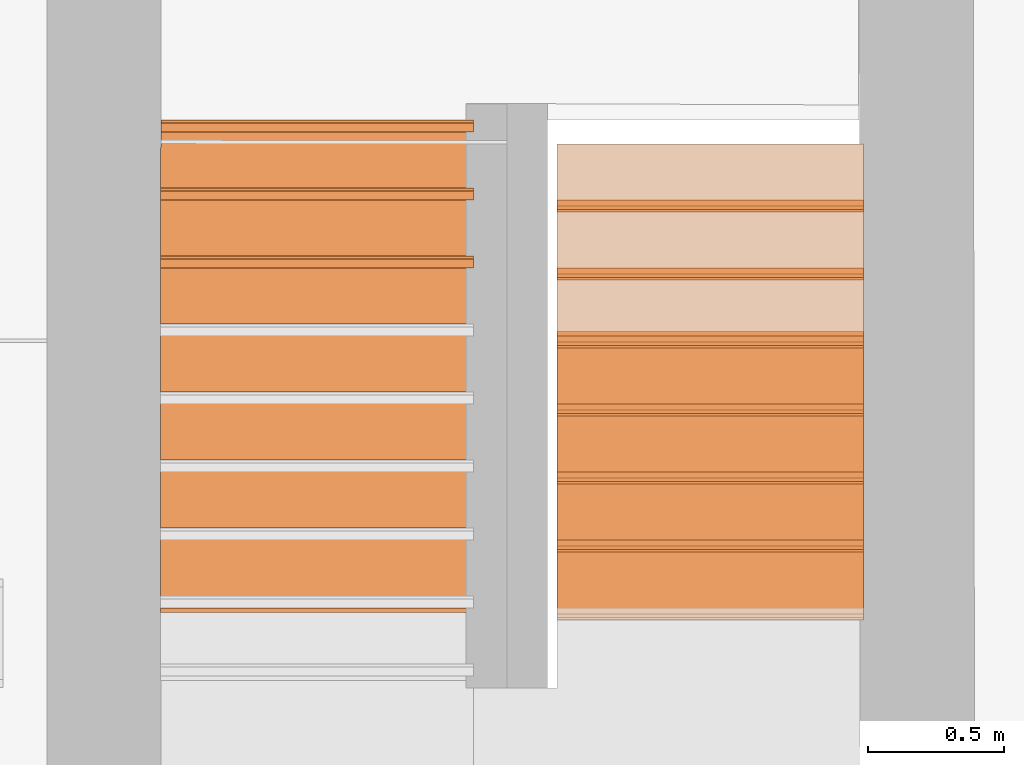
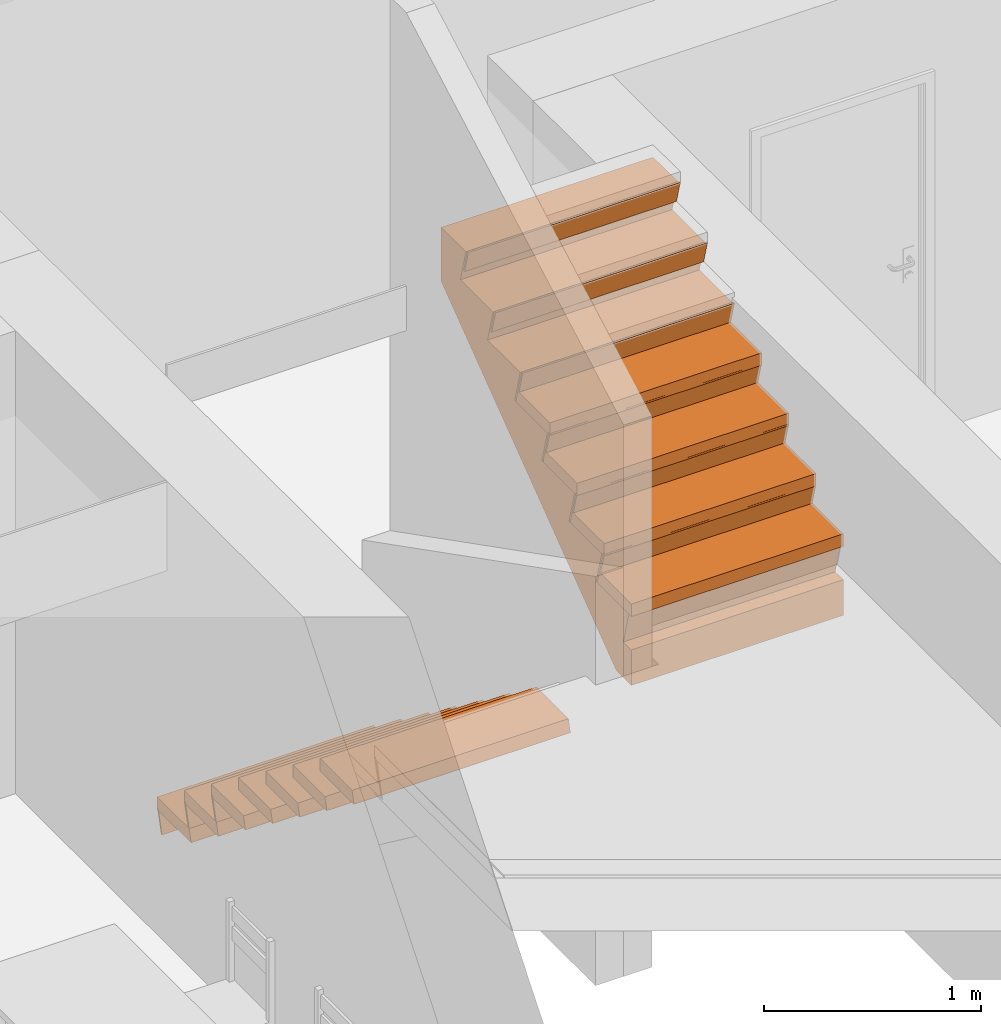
# One storey, part 121 of 127: 21 proxies, 1 element without a shape of its own.
"""IFC2X3 building model written with IfcOpenShell, lengths in millimetres."""

from ifc_helpers import new_model, entity, si_unit, converted_unit, derived_unit, money_unit, direction, frame, origin_with_axes, place, context, subcontext, project, spatial, faceted_brep, material, type_object, element, aggregate, save


model = new_model("IFC2X3")

# Units and contexts
model_context = context("Model", 3, precision=1e-05, world=origin_with_axes(), true_north=direction((0.0, 1.0)))
body_context = subcontext(model_context, "Body", "Model", "MODEL_VIEW")
ifc_project = project(units=[si_unit("LENGTHUNIT", "METRE", prefix="MILLI"), si_unit("AREAUNIT", "SQUARE_METRE"), si_unit("VOLUMEUNIT", "CUBIC_METRE"), converted_unit("PLANEANGLEUNIT", "DEGREE", entity("IfcPlaneAngleMeasure", 0.0174532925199), si_unit("PLANEANGLEUNIT", "RADIAN"), dimensions=[0, 0, 0, 0, 0, 0, 0]), si_unit("SOLIDANGLEUNIT", "STERADIAN"), money_unit("EUR"), converted_unit("TIMEUNIT", "Year", entity("IfcTimeMeasure", 31556926.0), si_unit("TIMEUNIT", "SECOND"), dimensions=[0, 0, 1, 0, 0, 0, 0]), si_unit("MASSUNIT", "GRAM", prefix="KILO"), si_unit("THERMODYNAMICTEMPERATUREUNIT", "DEGREE_CELSIUS"), si_unit("LUMINOUSINTENSITYUNIT", "LUMEN"), si_unit("ENERGYUNIT", "JOULE", prefix="MEGA"), derived_unit("THERMALCONDUCTANCEUNIT", [(si_unit("POWERUNIT", "WATT"), 1), (si_unit("LENGTHUNIT", "METRE"), -1), (si_unit("THERMODYNAMICTEMPERATUREUNIT", "KELVIN"), -1)]), derived_unit("SPECIFICHEATCAPACITYUNIT", [(si_unit("ENERGYUNIT", "JOULE"), 1), (si_unit("MASSUNIT", "GRAM", prefix="KILO"), -1), (si_unit("THERMODYNAMICTEMPERATUREUNIT", "KELVIN"), -1)]), derived_unit("MASSDENSITYUNIT", [(si_unit("MASSUNIT", "GRAM", prefix="KILO"), 1), (si_unit("VOLUMEUNIT", "CUBIC_METRE"), -1)])], contexts=[model_context])

# Site, building, storey
site_placement = place(None, origin_with_axes())
site = spatial("IfcSite", under=ifc_project, at=site_placement, Name="Site", CompositionType="ELEMENT")
building_placement = place(site_placement, origin_with_axes())
building = spatial("IfcBuilding", under=site, at=building_placement, Name="Building", CompositionType="ELEMENT")
storey_placement = place(building_placement, origin_with_axes())
storey = spatial("IfcBuildingStorey", under=building, at=storey_placement, Name="1 KORRUS", CompositionType="ELEMENT", Elevation=0.0)

# Stair, proxies
stair_placement = place(storey_placement, frame((62353.9582893, 39096.002044, 0.0), z_axis=(0.0, 0.0, 1.0), x_axis=(1.0, 0.0, 0.0)))
stair = element("IfcStair", 1, at=stair_placement, inside=storey, Name="STAIR - 003", ShapeType="NOTDEFINED")
ifc_material = material(Name="Betoon - Ol.Olev konstruktsioon")
building_element_proxy_type_1 = type_object("IfcBuildingElementProxyType", Name="BETOON TREPP", PredefinedType="NOTDEFINED")
proxy_1_placement = place(stair_placement, origin_with_axes())
proxy_1 = element("IfcBuildingElementProxy", 2, at=proxy_1_placement, type_object=building_element_proxy_type_1, material=ifc_material, Name="Betoon - Ol.Olev konstruktsioon;  Objekti nimi:", context=body_context, shape_type="Brep", body=[
    faceted_brep([(1383.39449535, 328.425805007, 2562.28088316), (1383.39449535, 370.092471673, 2593.53088316), (1383.39449535, 411.75913834, 2624.78088316), (1383.39449535, 411.75913834, 2930.0), (1383.39449535, 185.144153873, 2930.0), (1383.39449535, 235.384627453, 2742.5), (1383.39449535, -64.8558461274, 2742.5), (1383.39449535, -14.6153725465, 2555.0), (1383.39449535, -314.855846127, 2555.0), (1383.39449535, -264.615372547, 2367.5), (1383.39449535, -564.855846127, 2367.5), (1383.39449535, -514.615372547, 2180.0), (1383.39449535, -814.855846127, 2180.0), (1383.39449535, -764.615372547, 1992.5), (1383.39449535, -1064.85584613, 1992.5), (1383.39449535, -1014.61537255, 1805.0), (1383.39449535, -1314.85584613, 1805.0), (1383.39449535, -1264.61537255, 1617.5), (1383.39449535, -1338.24086166, 1617.5), (1383.39449535, -1338.24086166, 1417.5), (1383.39449535, -1197.94870588, 1417.5), (1383.39449535, -1171.57419499, 1437.28088316), (1383.39449535, -1129.90752833, 1468.53088316), (1383.39449535, -1088.24086166, 1499.78088316), (1383.39449535, -1046.57419499, 1531.03088316), (1383.39449535, -1004.90752833, 1562.28088316), (1383.39449535, -963.24086166, 1593.53088316), (1383.39449535, -921.574194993, 1624.78088316), (1383.39449535, -879.907528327, 1656.03088316), (1383.39449535, -838.24086166, 1687.28088316), (1383.39449535, -796.574194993, 1718.53088316), (1383.39449535, -754.907528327, 1749.78088316), (1383.39449535, -713.24086166, 1781.03088316), (1383.39449535, -671.574194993, 1812.28088316), (1383.39449535, -629.907528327, 1843.53088316), (1383.39449535, -588.24086166, 1874.78088316), (1383.39449535, -546.574194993, 1906.03088316), (1383.39449535, -504.907528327, 1937.28088316), (1383.39449535, -463.24086166, 1968.53088316), (1383.39449535, -421.574194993, 1999.78088316), (1383.39449535, -379.907528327, 2031.03088316), (1383.39449535, -338.24086166, 2062.28088316), (1383.39449535, -296.574194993, 2093.53088316), (1383.39449535, -254.907528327, 2124.78088316), (1383.39449535, -213.24086166, 2156.03088316), (1383.39449535, -171.574194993, 2187.28088316), (1383.39449535, -129.907528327, 2218.53088316), (1383.39449535, -88.2408616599, 2249.78088316), (1383.39449535, -46.5741949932, 2281.03088316), (1383.39449535, -4.90752832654, 2312.28088316), (1383.39449535, 36.7591383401, 2343.53088316), (1383.39449535, 78.4258050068, 2374.78088316), (1383.39449535, 120.092471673, 2406.03088316), (1383.39449535, 161.75913834, 2437.28088316), (1383.39449535, 203.425805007, 2468.53088316), (1383.39449535, 245.092471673, 2499.78088316), (1383.39449535, 286.75913834, 2531.03088316), (820.517122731, 328.425805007, 2562.28088316), (257.639750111, 411.75913834, 2624.78088316), (257.639750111, 370.092471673, 2593.53088316), (257.639750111, 411.75913834, 2930.0), (257.639750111, 185.144153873, 2930.0), (257.639750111, 235.384627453, 2742.5), (257.639750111, -64.8558461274, 2742.5), (257.639750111, -14.6153725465, 2555.0), (257.639750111, -314.855846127, 2555.0), (257.639750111, -264.615372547, 2367.5), (257.639750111, -564.855846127, 2367.5), (257.639750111, -514.615372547, 2180.0), (257.639750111, -814.855846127, 2180.0), (257.639750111, -764.615372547, 1992.5), (257.639750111, -1064.85584613, 1992.5), (257.639750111, -1014.61537255, 1805.0), (257.639750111, -1314.85584613, 1805.0), (257.639750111, -1264.61537255, 1617.5), (257.639750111, -1338.24086166, 1617.5), (257.639750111, -1338.24086166, 1417.5), (257.639750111, -1197.94870588, 1417.5), (464.222353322, -1197.94870588, 1417.5), (1176.81189214, -1197.94870588, 1417.5), (820.517122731, -1171.57419499, 1437.28088316), (820.517122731, -1088.24086166, 1499.78088316), (820.517122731, -1004.90752833, 1562.28088316), (820.517122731, -921.574194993, 1624.78088316), (820.517122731, -838.24086166, 1687.28088316), (820.517122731, -754.907528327, 1749.78088316), (820.517122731, -671.574194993, 1812.28088316), (820.517122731, -588.24086166, 1874.78088316), (820.517122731, -504.907528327, 1937.28088316), (820.517122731, -421.574194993, 1999.78088316), (820.517122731, -338.24086166, 2062.28088316), (820.517122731, -254.907528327, 2124.78088316), (820.517122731, -171.574194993, 2187.28088316), (820.517122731, -88.2408616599, 2249.78088316), (820.517122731, -4.90752832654, 2312.28088316), (820.517122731, 78.4258050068, 2374.78088316), (820.517122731, 161.75913834, 2437.28088316), (820.517122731, 245.092471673, 2499.78088316), (257.639750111, 328.425805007, 2562.28088316), (257.639750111, 286.75913834, 2531.03088316), (257.639750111, 245.092471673, 2499.78088316), (257.639750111, 203.425805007, 2468.53088316), (257.639750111, 161.75913834, 2437.28088316), (257.639750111, 120.092471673, 2406.03088316), (257.639750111, 78.4258050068, 2374.78088316), (257.639750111, 36.7591383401, 2343.53088316), (257.639750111, -4.90752832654, 2312.28088316), (257.639750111, -46.5741949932, 2281.03088316), (257.639750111, -88.2408616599, 2249.78088316), (257.639750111, -129.907528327, 2218.53088316), (257.639750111, -171.574194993, 2187.28088316), (257.639750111, -213.24086166, 2156.03088316), (257.639750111, -254.907528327, 2124.78088316), (257.639750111, -296.574194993, 2093.53088316), (257.639750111, -338.24086166, 2062.28088316), (257.639750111, -379.907528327, 2031.03088316), (257.639750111, -421.574194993, 1999.78088316), (257.639750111, -463.24086166, 1968.53088316), (257.639750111, -504.907528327, 1937.28088316), (257.639750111, -546.574194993, 1906.03088316), (257.639750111, -588.24086166, 1874.78088316), (257.639750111, -629.907528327, 1843.53088316), (257.639750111, -671.574194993, 1812.28088316), (257.639750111, -713.24086166, 1781.03088316), (257.639750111, -754.907528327, 1749.78088316), (257.639750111, -796.574194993, 1718.53088316), (257.639750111, -838.24086166, 1687.28088316), (257.639750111, -879.907528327, 1656.03088316), (257.639750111, -921.574194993, 1624.78088316), (257.639750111, -963.24086166, 1593.53088316), (257.639750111, -1004.90752833, 1562.28088316), (257.639750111, -1046.57419499, 1531.03088316), (257.639750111, -1088.24086166, 1499.78088316), (257.639750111, -1129.90752833, 1468.53088316), (257.639750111, -1171.57419499, 1437.28088316)], [[[0, 1, 2, 3, 4, 5, 6, 7, 8, 9, 10, 11, 12, 13, 14, 15, 16, 17, 18, 19, 20, 21, 22, 23, 24, 25, 26, 27, 28, 29, 30, 31, 32, 33, 34, 35, 36, 37, 38, 39, 40, 41, 42, 43, 44, 45, 46, 47, 48, 49, 50, 51, 52, 53, 54, 55, 56]], [[57, 1, 0]], [[58, 2, 1, 57, 59]], [[3, 2, 58, 60]], [[3, 60, 61, 4]], [[61, 62, 5, 4]], [[63, 6, 5, 62]], [[63, 64, 7, 6]], [[65, 8, 7, 64]], [[65, 66, 9, 8]], [[67, 10, 9, 66]], [[67, 68, 11, 10]], [[69, 12, 11, 68]], [[69, 70, 13, 12]], [[71, 14, 13, 70]], [[71, 72, 15, 14]], [[73, 16, 15, 72]], [[73, 74, 17, 16]], [[74, 75, 18, 17]], [[76, 19, 18, 75]], [[20, 19, 76, 77, 78, 79]], [[80, 21, 20, 79]], [[80, 22, 21]], [[81, 23, 22]], [[81, 24, 23]], [[82, 25, 24]], [[82, 26, 25]], [[83, 27, 26]], [[83, 28, 27]], [[84, 29, 28]], [[84, 30, 29]], [[85, 31, 30]], [[85, 32, 31]], [[86, 33, 32]], [[86, 34, 33]], [[87, 35, 34]], [[87, 36, 35]], [[88, 37, 36]], [[88, 38, 37]], [[89, 39, 38]], [[89, 40, 39]], [[90, 41, 40]], [[90, 42, 41]], [[91, 43, 42]], [[91, 44, 43]], [[92, 45, 44]], [[92, 46, 45]], [[93, 47, 46]], [[93, 48, 47]], [[94, 49, 48]], [[94, 50, 49]], [[95, 51, 50]], [[95, 52, 51]], [[96, 53, 52]], [[96, 54, 53]], [[97, 55, 54]], [[97, 56, 55]], [[57, 0, 56]], [[57, 98, 59]], [[77, 76, 75, 74, 73, 72, 71, 70, 69, 68, 67, 66, 65, 64, 63, 62, 61, 60, 58, 59, 98, 99, 100, 101, 102, 103, 104, 105, 106, 107, 108, 109, 110, 111, 112, 113, 114, 115, 116, 117, 118, 119, 120, 121, 122, 123, 124, 125, 126, 127, 128, 129, 130, 131, 132, 133, 134]], [[78, 77, 134, 80]], [[79, 78, 80]], [[81, 22, 80, 133]], [[82, 24, 81, 131]], [[129, 83, 26, 82]], [[84, 28, 83, 127]], [[85, 30, 84, 125]], [[86, 32, 85, 123]], [[87, 34, 86, 121]], [[88, 36, 87, 119]], [[117, 89, 38, 88]], [[90, 40, 89, 115]], [[91, 42, 90, 113]], [[111, 92, 44, 91]], [[109, 93, 46, 92]], [[107, 94, 48, 93]], [[105, 95, 50, 94]], [[96, 52, 95, 103]], [[97, 54, 96, 101]], [[57, 56, 97, 99]], [[57, 99, 98]], [[97, 100, 99]], [[97, 101, 100]], [[96, 102, 101]], [[96, 103, 102]], [[95, 104, 103]], [[95, 105, 104]], [[94, 106, 105]], [[94, 107, 106]], [[93, 108, 107]], [[93, 109, 108]], [[92, 110, 109]], [[92, 111, 110]], [[91, 112, 111]], [[91, 113, 112]], [[90, 114, 113]], [[90, 115, 114]], [[89, 116, 115]], [[89, 117, 116]], [[88, 118, 117]], [[88, 119, 118]], [[87, 120, 119]], [[87, 121, 120]], [[86, 122, 121]], [[86, 123, 122]], [[85, 124, 123]], [[85, 125, 124]], [[84, 126, 125]], [[84, 127, 126]], [[83, 128, 127]], [[83, 129, 128]], [[82, 130, 129]], [[82, 131, 130]], [[81, 132, 131]], [[81, 133, 132]], [[80, 134, 133]]]),
])
building_element_proxy_type_2 = type_object("IfcBuildingElementProxyType", Name="SF RISER - 053", PredefinedType="NOTDEFINED")
proxy_2_placement = place(stair_placement, frame((-600.0, 0.470800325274, 502.5), z_axis=(0.0, 0.0, 1.0), x_axis=(-1.0, 0.0, 0.0)))
proxy_2 = element("IfcBuildingElementProxy", 3, at=proxy_2_placement, type_object=building_element_proxy_type_2, material=ifc_material, Name=";  Objekti nimi: Riser 22", context=body_context, shape_type="Brep", body=[
    faceted_brep([(600.192035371, 0.0, 0.0), (600.196011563, 10.3527618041, 0.0), (-549.543460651, 10.3527618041, 0.0), (-549.543460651, 0.0, 0.0), (600.20515658, 34.163522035, -127.5), (600.209132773, 44.5162838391, -127.5), (-549.543460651, 44.5162838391, -127.5), (-549.543460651, 34.163522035, -127.5)], [[[0, 1, 2, 3]], [[0, 4, 5, 1]], [[1, 5, 6, 2]], [[3, 2, 6, 7]], [[4, 0, 3, 7]], [[5, 4, 7, 6]]]),
])
building_element_proxy_type_3 = type_object("IfcBuildingElementProxyType", Name="SF TREAD - 053", PredefinedType="NOTDEFINED")
proxy_3_placement = place(stair_placement, frame((-600.0, 0.470800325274, 562.5), z_axis=(0.0, 0.0, 1.0), x_axis=(-1.0, 0.0, 0.0)))
proxy_3 = element("IfcBuildingElementProxy", 4, at=proxy_3_placement, type_object=building_element_proxy_type_3, material=ifc_material, Name=";  Objekti nimi: Tread 22", context=body_context, shape_type="Brep", body=[
    faceted_brep([(-549.543460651, 310.593235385, -70.0), (600.311325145, 310.593235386, -70.0), (600.192035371, 0.0, -70.0), (-549.543460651, 0.0, -70.0), (560.20739525, 40.0, -70.0), (560.295959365, 270.593235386, -70.0), (-509.543460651, 270.593235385, -70.0), (-509.543460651, 40.0, -70.0), (-549.543460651, 310.593235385, -60.0), (600.311325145, 310.593235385, -60.0), (600.305150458, 294.516283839, 0.0), (600.192035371, 0.0, 0.0), (-549.543460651, 0.0, 0.0), (-549.543460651, 294.516283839, 0.0), (560.20739525, 40.0, -60.0), (560.295959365, 270.593235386, -60.0), (-509.543460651, 270.593235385, -60.0), (-509.543460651, 40.0, -60.0)], [[[0, 1, 2, 3], [4, 5, 6, 7]], [[0, 8, 9, 1]], [[10, 11, 2, 1, 9]], [[11, 12, 3, 2]], [[12, 13, 8, 0, 3]], [[5, 4, 14, 15]], [[6, 5, 15, 16]], [[7, 6, 16, 17]], [[4, 7, 17, 14]], [[13, 10, 9, 8]], [[10, 13, 12, 11]], [[17, 16, 15, 14]]]),
])
building_element_proxy_type_4 = type_object("IfcBuildingElementProxyType", Name="SF TREAD - 054", PredefinedType="NOTDEFINED")
proxy_4_placement = place(stair_placement, frame((-600.0, -249.529199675, 750.0), z_axis=(0.0, 0.0, 1.0), x_axis=(-1.0, 0.0, 0.0)))
proxy_4 = element("IfcBuildingElementProxy", 5, at=proxy_4_placement, type_object=building_element_proxy_type_4, material=ifc_material, Name=";  Objekti nimi: Tread 22", context=body_context, shape_type="Brep", body=[
    faceted_brep([(-549.543460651, 310.593235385, -70.0), (600.40734283, 310.593235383, -70.0), (600.288053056, 0.0, -70.0), (-549.543460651, 0.0, -70.0), (560.303412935, 40.0, -70.0), (560.39197705, 270.593235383, -70.0), (-509.543460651, 270.593235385, -70.0), (-509.543460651, 40.0, -70.0), (-549.543460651, 310.593235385, -60.0), (600.40734283, 310.593235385, -60.0), (600.401168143, 294.516283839, 0.0), (600.288053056, 0.0, 0.0), (-549.543460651, 0.0, 0.0), (-549.543460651, 294.516283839, 0.0), (560.303412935, 40.0, -60.0), (560.39197705, 270.593235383, -60.0), (-509.543460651, 270.593235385, -60.0), (-509.543460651, 40.0, -60.0)], [[[0, 1, 2, 3], [4, 5, 6, 7]], [[0, 8, 9, 1]], [[10, 11, 2, 1, 9]], [[11, 12, 3, 2]], [[12, 13, 8, 0, 3]], [[5, 4, 14, 15]], [[6, 5, 15, 16]], [[7, 6, 16, 17]], [[4, 7, 17, 14]], [[13, 10, 9, 8]], [[10, 13, 12, 11]], [[17, 16, 15, 14]]]),
])
building_element_proxy_type_5 = type_object("IfcBuildingElementProxyType", Name="SF TREAD - 055", PredefinedType="NOTDEFINED")
proxy_5_placement = place(stair_placement, frame((-600.0, -499.529199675, 937.5), z_axis=(0.0, 0.0, 1.0), x_axis=(-1.0, 0.0, 0.0)))
proxy_5 = element("IfcBuildingElementProxy", 6, at=proxy_5_placement, type_object=building_element_proxy_type_5, material=ifc_material, Name=";  Objekti nimi: Tread 22", context=body_context, shape_type="Brep", body=[
    faceted_brep([(-549.543460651, 310.593235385, -70.0), (600.503360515, 310.593235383, -70.0), (600.384070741, 0.0, -70.0), (-549.543460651, 0.0, -70.0), (560.399430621, 40.0, -70.0), (560.487994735, 270.593235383, -70.0), (-509.543460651, 270.593235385, -70.0), (-509.543460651, 40.0, -70.0), (-549.543460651, 310.593235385, -60.0), (600.503360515, 310.593235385, -60.0), (600.497185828, 294.516283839, 0.0), (600.384070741, 0.0, 0.0), (-549.543460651, 0.0, 0.0), (-549.543460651, 294.516283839, 0.0), (560.399430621, 40.0, -60.0), (560.487994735, 270.593235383, -60.0), (-509.543460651, 270.593235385, -60.0), (-509.543460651, 40.0, -60.0)], [[[0, 1, 2, 3], [4, 5, 6, 7]], [[0, 8, 9, 1]], [[10, 11, 2, 1, 9]], [[11, 12, 3, 2]], [[12, 13, 8, 0, 3]], [[5, 4, 14, 15]], [[6, 5, 15, 16]], [[7, 6, 16, 17]], [[4, 7, 17, 14]], [[13, 10, 9, 8]], [[10, 13, 12, 11]], [[17, 16, 15, 14]]]),
])
building_element_proxy_type_6 = type_object("IfcBuildingElementProxyType", Name="SF RISER - 051", PredefinedType="NOTDEFINED")
proxy_6_placement = place(stair_placement, frame((-600.0, 500.470800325, 127.5), z_axis=(0.0, 0.0, 1.0), x_axis=(-1.0, 0.0, 0.0)))
proxy_6 = element("IfcBuildingElementProxy", 7, at=proxy_6_placement, type_object=building_element_proxy_type_6, material=ifc_material, Name=";  Objekti nimi: Riser 22", context=body_context, shape_type="Brep", body=[
    faceted_brep([(600.0, 0.0, 0.0), (600.003976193, 10.3527618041, 0.0), (-549.543460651, 10.3527618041, 0.0), (-549.543460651, 0.0, 0.0), (600.013121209, 34.163522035, -127.5), (600.017097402, 44.5162838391, -127.5), (-549.543460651, 44.5162838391, -127.5), (-549.543460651, 34.163522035, -127.5)], [[[0, 1, 2, 3]], [[0, 4, 5, 1]], [[1, 5, 6, 2]], [[3, 2, 6, 7]], [[4, 0, 3, 7]], [[5, 4, 7, 6]]]),
])
building_element_proxy_type_7 = type_object("IfcBuildingElementProxyType", Name="SF RISER - 052", PredefinedType="NOTDEFINED")
proxy_7_placement = place(stair_placement, frame((-600.0, 250.470800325, 315.0), z_axis=(0.0, 0.0, 1.0), x_axis=(-1.0, 0.0, 0.0)))
proxy_7 = element("IfcBuildingElementProxy", 8, at=proxy_7_placement, type_object=building_element_proxy_type_7, material=ifc_material, Name=";  Objekti nimi: Riser 22", context=body_context, shape_type="Brep", body=[
    faceted_brep([(600.096017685, 0.0, 0.0), (600.099993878, 10.3527618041, 0.0), (-549.543460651, 10.3527618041, 0.0), (-549.543460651, 0.0, 0.0), (600.109138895, 34.163522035, -127.5), (600.113115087, 44.5162838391, -127.5), (-549.543460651, 44.5162838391, -127.5), (-549.543460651, 34.163522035, -127.5)], [[[0, 1, 2, 3]], [[0, 4, 5, 1]], [[1, 5, 6, 2]], [[3, 2, 6, 7]], [[4, 0, 3, 7]], [[5, 4, 7, 6]]]),
])
building_element_proxy_type_8 = type_object("IfcBuildingElementProxyType", Name="SF RISER - 060", PredefinedType="NOTDEFINED")
proxy_8_placement = place(stair_placement, frame((857.639750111, -1088.24086166, 2002.5), z_axis=(0.0, 0.0, 1.0), x_axis=(1.0, 0.0, 0.0)))
proxy_8 = element("IfcBuildingElementProxy", 9, at=proxy_8_placement, type_object=building_element_proxy_type_8, material=ifc_material, Name=";  Objekti nimi: Riser 22", context=body_context, shape_type="Brep", body=[
    faceted_brep([(525.754745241, 0.0, 0.0), (525.754745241, 10.3527618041, 0.0), (-600.0, 10.3527618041, 0.0), (-600.0, 0.0, 0.0), (525.754745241, 34.163522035, -127.5), (525.754745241, 44.5162838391, -127.5), (-600.0, 44.5162838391, -127.5), (-600.0, 34.163522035, -127.5)], [[[0, 1, 2, 3]], [[0, 4, 5, 1]], [[1, 5, 6, 2]], [[3, 2, 6, 7]], [[4, 0, 3, 7]], [[5, 4, 7, 6]]]),
])
building_element_proxy_type_9 = type_object("IfcBuildingElementProxyType", Name="SF RISER - 061", PredefinedType="NOTDEFINED")
proxy_9_placement = place(stair_placement, frame((857.639750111, -838.24086166, 2190.0), z_axis=(0.0, 0.0, 1.0), x_axis=(1.0, 0.0, 0.0)))
proxy_9 = element("IfcBuildingElementProxy", 10, at=proxy_9_placement, type_object=building_element_proxy_type_9, material=ifc_material, Name=";  Objekti nimi: Riser 22", context=body_context, shape_type="Brep", body=[
    faceted_brep([(525.754745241, 0.0, 0.0), (525.754745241, 10.3527618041, 0.0), (-600.0, 10.3527618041, 0.0), (-600.0, 0.0, 0.0), (525.754745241, 34.163522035, -127.5), (525.754745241, 44.5162838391, -127.5), (-600.0, 44.5162838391, -127.5), (-600.0, 34.163522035, -127.5)], [[[0, 1, 2, 3]], [[0, 4, 5, 1]], [[1, 5, 6, 2]], [[3, 2, 6, 7]], [[4, 0, 3, 7]], [[5, 4, 7, 6]]]),
])
building_element_proxy_type_10 = type_object("IfcBuildingElementProxyType", Name="SF RISER - 062", PredefinedType="NOTDEFINED")
proxy_10_placement = place(stair_placement, frame((857.639750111, -588.24086166, 2377.5), z_axis=(0.0, 0.0, 1.0), x_axis=(1.0, 0.0, 0.0)))
proxy_10 = element("IfcBuildingElementProxy", 11, at=proxy_10_placement, type_object=building_element_proxy_type_10, material=ifc_material, Name=";  Objekti nimi: Riser 22", context=body_context, shape_type="Brep", body=[
    faceted_brep([(525.754745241, 0.0, 0.0), (525.754745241, 10.3527618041, 0.0), (-600.0, 10.3527618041, 0.0), (-600.0, 0.0, 0.0), (525.754745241, 34.163522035, -127.5), (525.754745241, 44.5162838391, -127.5), (-600.0, 44.5162838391, -127.5), (-600.0, 34.163522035, -127.5)], [[[0, 1, 2, 3]], [[0, 4, 5, 1]], [[1, 5, 6, 2]], [[3, 2, 6, 7]], [[4, 0, 3, 7]], [[5, 4, 7, 6]]]),
])
building_element_proxy_type_11 = type_object("IfcBuildingElementProxyType", Name="SF RISER - 063", PredefinedType="NOTDEFINED")
proxy_11_placement = place(stair_placement, frame((857.639750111, -338.24086166, 2565.0), z_axis=(0.0, 0.0, 1.0), x_axis=(1.0, 0.0, 0.0)))
proxy_11 = element("IfcBuildingElementProxy", 12, at=proxy_11_placement, type_object=building_element_proxy_type_11, material=ifc_material, Name=";  Objekti nimi: Riser 22", context=body_context, shape_type="Brep", body=[
    faceted_brep([(525.754745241, 0.0, 0.0), (525.754745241, 10.3527618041, 0.0), (-600.0, 10.3527618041, 0.0), (-600.0, 0.0, 0.0), (525.754745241, 34.163522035, -127.5), (525.754745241, 44.5162838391, -127.5), (-600.0, 44.5162838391, -127.5), (-600.0, 34.163522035, -127.5)], [[[0, 1, 2, 3]], [[0, 4, 5, 1]], [[1, 5, 6, 2]], [[3, 2, 6, 7]], [[4, 0, 3, 7]], [[5, 4, 7, 6]]]),
])
building_element_proxy_type_12 = type_object("IfcBuildingElementProxyType", Name="SF RISER - 064", PredefinedType="NOTDEFINED")
proxy_12_placement = place(stair_placement, frame((857.639750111, -88.2408616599, 2752.5), z_axis=(0.0, 0.0, 1.0), x_axis=(1.0, 0.0, 0.0)))
proxy_12 = element("IfcBuildingElementProxy", 13, at=proxy_12_placement, type_object=building_element_proxy_type_12, material=ifc_material, Name=";  Objekti nimi: Riser 22", context=body_context, shape_type="Brep", body=[
    faceted_brep([(525.754745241, 0.0, 0.0), (525.754745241, 10.3527618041, 0.0), (-600.0, 10.3527618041, 0.0), (-600.0, 0.0, 0.0), (525.754745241, 34.163522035, -127.5), (525.754745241, 44.5162838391, -127.5), (-600.0, 44.5162838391, -127.5), (-600.0, 34.163522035, -127.5)], [[[0, 1, 2, 3]], [[0, 4, 5, 1]], [[1, 5, 6, 2]], [[3, 2, 6, 7]], [[4, 0, 3, 7]], [[5, 4, 7, 6]]]),
])
building_element_proxy_type_13 = type_object("IfcBuildingElementProxyType", Name="SF RISER - 065", PredefinedType="NOTDEFINED")
proxy_13_placement = place(stair_placement, frame((857.639750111, 161.75913834, 2940.0), z_axis=(0.0, 0.0, 1.0), x_axis=(1.0, 0.0, 0.0)))
proxy_13 = element("IfcBuildingElementProxy", 14, at=proxy_13_placement, type_object=building_element_proxy_type_13, material=ifc_material, Name=";  Objekti nimi: Riser 22", context=body_context, shape_type="Brep", body=[
    faceted_brep([(525.754745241, 0.0, 0.0), (525.754745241, 10.3527618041, 0.0), (-600.0, 10.3527618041, 0.0), (-600.0, 0.0, 0.0), (525.754745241, 34.163522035, -127.5), (525.754745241, 44.5162838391, -127.5), (-600.0, 44.5162838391, -127.5), (-600.0, 34.163522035, -127.5)], [[[0, 1, 2, 3]], [[0, 4, 5, 1]], [[1, 5, 6, 2]], [[3, 2, 6, 7]], [[4, 0, 3, 7]], [[5, 4, 7, 6]]]),
])
building_element_proxy_type_14 = type_object("IfcBuildingElementProxyType", Name="SF TREAD - 051", PredefinedType="NOTDEFINED")
proxy_14_placement = place(stair_placement, frame((-600.0, 500.470800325, 187.5), z_axis=(0.0, 0.0, 1.0), x_axis=(-1.0, 0.0, 0.0)))
proxy_14 = element("IfcBuildingElementProxy", 15, at=proxy_14_placement, type_object=building_element_proxy_type_14, material=ifc_material, Name=";  Objekti nimi: Tread 22", context=body_context, shape_type="Brep", body=[
    faceted_brep([(-549.543460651, 310.593235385, -70.0), (600.119289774, 310.593235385, -70.0), (600.0, 0.0, -70.0), (-549.543460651, 0.0, -70.0), (560.015359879, 40.0, -70.0), (560.103923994, 270.593235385, -70.0), (-509.543460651, 270.593235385, -70.0), (-509.543460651, 40.0, -70.0), (-549.543460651, 310.593235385, -60.0), (600.119289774, 310.593235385, -60.0), (600.113115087, 294.516283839, 0.0), (600.0, 0.0, 0.0), (-549.543460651, 0.0, 0.0), (-549.543460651, 294.516283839, 0.0), (560.015359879, 40.0, -60.0), (560.103923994, 270.593235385, -60.0), (-509.543460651, 270.593235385, -60.0), (-509.543460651, 40.0, -60.0)], [[[0, 1, 2, 3], [4, 5, 6, 7]], [[0, 8, 9, 1]], [[10, 11, 2, 1, 9]], [[11, 12, 3, 2]], [[12, 13, 8, 0, 3]], [[5, 4, 14, 15]], [[6, 5, 15, 16]], [[7, 6, 16, 17]], [[4, 7, 17, 14]], [[13, 10, 9, 8]], [[10, 13, 12, 11]], [[17, 16, 15, 14]]]),
])
building_element_proxy_type_15 = type_object("IfcBuildingElementProxyType", Name="SF TREAD - 052", PredefinedType="NOTDEFINED")
proxy_15_placement = place(stair_placement, frame((-600.0, 250.470800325, 375.0), z_axis=(0.0, 0.0, 1.0), x_axis=(-1.0, 0.0, 0.0)))
proxy_15 = element("IfcBuildingElementProxy", 16, at=proxy_15_placement, type_object=building_element_proxy_type_15, material=ifc_material, Name=";  Objekti nimi: Tread 22", context=body_context, shape_type="Brep", body=[
    faceted_brep([(-549.543460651, 310.593235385, -70.0), (600.215307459, 310.593235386, -70.0), (600.096017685, 0.0, -70.0), (-549.543460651, 0.0, -70.0), (560.111377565, 40.0, -70.0), (560.19994168, 270.593235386, -70.0), (-509.543460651, 270.593235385, -70.0), (-509.543460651, 40.0, -70.0), (-549.543460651, 310.593235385, -60.0), (600.215307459, 310.593235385, -60.0), (600.209132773, 294.516283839, 0.0), (600.096017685, 0.0, 0.0), (-549.543460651, 0.0, 0.0), (-549.543460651, 294.516283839, 0.0), (560.111377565, 40.0, -60.0), (560.19994168, 270.593235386, -60.0), (-509.543460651, 270.593235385, -60.0), (-509.543460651, 40.0, -60.0)], [[[0, 1, 2, 3], [4, 5, 6, 7]], [[0, 8, 9, 1]], [[10, 11, 2, 1, 9]], [[11, 12, 3, 2]], [[12, 13, 8, 0, 3]], [[5, 4, 14, 15]], [[6, 5, 15, 16]], [[7, 6, 16, 17]], [[4, 7, 17, 14]], [[13, 10, 9, 8]], [[10, 13, 12, 11]], [[17, 16, 15, 14]]]),
])
building_element_proxy_type_16 = type_object("IfcBuildingElementProxyType", Name="SF TREAD - 056", PredefinedType="NOTDEFINED")
proxy_16_placement = place(stair_placement, frame((-600.0, -749.529199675, 1125.0), z_axis=(0.0, 0.0, 1.0), x_axis=(-1.0, 0.0, 0.0)))
proxy_16 = element("IfcBuildingElementProxy", 17, at=proxy_16_placement, type_object=building_element_proxy_type_16, material=ifc_material, Name=";  Objekti nimi: Tread 22", context=body_context, shape_type="Brep", body=[
    faceted_brep([(-549.543460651, 310.593235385, -70.0), (600.5993782, 310.593235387, -70.0), (600.480088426, 0.0, -70.0), (-549.543460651, 0.0, -70.0), (560.495448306, 40.0, -70.0), (560.584012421, 270.593235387, -70.0), (-509.543460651, 270.593235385, -70.0), (-509.543460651, 40.0, -70.0), (-549.543460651, 310.593235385, -60.0), (600.5993782, 310.593235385, -60.0), (600.593203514, 294.516283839, 0.0), (600.480088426, 0.0, 0.0), (-549.543460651, 0.0, 0.0), (-549.543460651, 294.516283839, 0.0), (560.495448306, 40.0, -60.0), (560.584012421, 270.593235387, -60.0), (-509.543460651, 270.593235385, -60.0), (-509.543460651, 40.0, -60.0)], [[[0, 1, 2, 3], [4, 5, 6, 7]], [[0, 8, 9, 1]], [[10, 11, 2, 1, 9]], [[11, 12, 3, 2]], [[12, 13, 8, 0, 3]], [[5, 4, 14, 15]], [[6, 5, 15, 16]], [[7, 6, 16, 17]], [[4, 7, 17, 14]], [[13, 10, 9, 8]], [[10, 13, 12, 11]], [[17, 16, 15, 14]]]),
])
building_element_proxy_type_17 = type_object("IfcBuildingElementProxyType", Name="SF TREAD - 057", PredefinedType="NOTDEFINED")
proxy_17_placement = place(stair_placement, frame((-600.0, -999.529199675, 1312.5), z_axis=(0.0, 0.0, 1.0), x_axis=(-1.0, 0.0, 0.0)))
proxy_17 = element("IfcBuildingElementProxy", 18, at=proxy_17_placement, type_object=building_element_proxy_type_17, material=ifc_material, Name=";  Objekti nimi: Tread 22", context=body_context, shape_type="Brep", body=[
    faceted_brep([(-549.543460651, 310.593235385, -70.0), (600.695395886, 310.593235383, -70.0), (600.576106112, 0.0, -70.0), (-549.543460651, 0.0, -70.0), (560.591465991, 40.0, -70.0), (560.680030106, 270.593235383, -70.0), (-509.543460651, 270.593235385, -70.0), (-509.543460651, 40.0, -70.0), (-549.543460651, 310.593235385, -60.0), (600.695395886, 310.593235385, -60.0), (600.689221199, 294.516283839, 0.0), (600.576106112, 0.0, 0.0), (-549.543460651, 0.0, 0.0), (-549.543460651, 294.516283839, 0.0), (560.591465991, 40.0, -60.0), (560.680030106, 270.593235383, -60.0), (-509.543460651, 270.593235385, -60.0), (-509.543460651, 40.0, -60.0)], [[[0, 1, 2, 3], [4, 5, 6, 7]], [[0, 8, 9, 1]], [[10, 11, 2, 1, 9]], [[11, 12, 3, 2]], [[12, 13, 8, 0, 3]], [[5, 4, 14, 15]], [[6, 5, 15, 16]], [[7, 6, 16, 17]], [[4, 7, 17, 14]], [[13, 10, 9, 8]], [[10, 13, 12, 11]], [[17, 16, 15, 14]]]),
])
building_element_proxy_type_18 = type_object("IfcBuildingElementProxyType", Name="SF TREAD - 059", PredefinedType="NOTDEFINED")
proxy_18_placement = place(stair_placement, frame((857.639750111, -1338.24086166, 1875.0), z_axis=(0.0, 0.0, 1.0), x_axis=(1.0, 0.0, 0.0)))
proxy_18 = element("IfcBuildingElementProxy", 19, at=proxy_18_placement, type_object=building_element_proxy_type_18, material=ifc_material, Name=";  Objekti nimi: Tread 22", context=body_context, shape_type="Brep", body=[
    faceted_brep([(-600.0, 310.593236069, -70.0), (525.754745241, 310.593236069, -70.0), (525.754745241, 0.0, -70.0), (-600.0, 0.0, -70.0), (485.754745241, 40.0, -70.0), (485.754745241, 270.593236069, -70.0), (-560.0, 270.593236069, -70.0), (-560.0, 40.0, -70.0), (-600.0, 310.593236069, -60.0), (525.754745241, 310.593236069, -60.0), (525.754745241, 294.516284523, 0.0), (525.754745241, 0.0, 0.0), (-600.0, 0.0, 0.0), (-600.0, 294.516284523, 0.0), (485.754745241, 40.0, -60.0), (485.754745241, 270.593236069, -60.0), (-560.0, 270.593236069, -60.0), (-560.0, 40.0, -60.0)], [[[0, 1, 2, 3], [4, 5, 6, 7]], [[0, 8, 9, 1]], [[10, 11, 2, 1, 9]], [[11, 12, 3, 2]], [[12, 13, 8, 0, 3]], [[5, 4, 14, 15]], [[6, 5, 15, 16]], [[7, 6, 16, 17]], [[4, 7, 17, 14]], [[13, 10, 9, 8]], [[10, 13, 12, 11]], [[17, 16, 15, 14]]]),
])
building_element_proxy_type_19 = type_object("IfcBuildingElementProxyType", Name="SF TREAD - 060", PredefinedType="NOTDEFINED")
proxy_19_placement = place(stair_placement, frame((857.639750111, -1088.24086166, 2062.5), z_axis=(0.0, 0.0, 1.0), x_axis=(1.0, 0.0, 0.0)))
proxy_19 = element("IfcBuildingElementProxy", 20, at=proxy_19_placement, type_object=building_element_proxy_type_19, material=ifc_material, Name=";  Objekti nimi: Tread 22", context=body_context, shape_type="Brep", body=[
    faceted_brep([(-600.0, 310.593236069, -70.0), (525.754745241, 310.593236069, -70.0), (525.754745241, 0.0, -70.0), (-600.0, 0.0, -70.0), (485.754745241, 40.0, -70.0), (485.754745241, 270.593236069, -70.0), (-560.0, 270.593236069, -70.0), (-560.0, 40.0, -70.0), (-600.0, 310.593236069, -60.0), (525.754745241, 310.593236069, -60.0), (525.754745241, 294.516284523, 0.0), (525.754745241, 0.0, 0.0), (-600.0, 0.0, 0.0), (-600.0, 294.516284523, 0.0), (485.754745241, 40.0, -60.0), (485.754745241, 270.593236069, -60.0), (-560.0, 270.593236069, -60.0), (-560.0, 40.0, -60.0)], [[[0, 1, 2, 3], [4, 5, 6, 7]], [[0, 8, 9, 1]], [[10, 11, 2, 1, 9]], [[11, 12, 3, 2]], [[12, 13, 8, 0, 3]], [[5, 4, 14, 15]], [[6, 5, 15, 16]], [[7, 6, 16, 17]], [[4, 7, 17, 14]], [[13, 10, 9, 8]], [[10, 13, 12, 11]], [[17, 16, 15, 14]]]),
])
building_element_proxy_type_20 = type_object("IfcBuildingElementProxyType", Name="SF TREAD - 061", PredefinedType="NOTDEFINED")
proxy_20_placement = place(stair_placement, frame((857.639750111, -838.24086166, 2250.0), z_axis=(0.0, 0.0, 1.0), x_axis=(1.0, 0.0, 0.0)))
proxy_20 = element("IfcBuildingElementProxy", 21, at=proxy_20_placement, type_object=building_element_proxy_type_20, material=ifc_material, Name=";  Objekti nimi: Tread 22", context=body_context, shape_type="Brep", body=[
    faceted_brep([(-600.0, 310.593236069, -70.0), (525.754745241, 310.593236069, -70.0), (525.754745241, 0.0, -70.0), (-600.0, 0.0, -70.0), (485.754745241, 40.0, -70.0), (485.754745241, 270.593236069, -70.0), (-560.0, 270.593236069, -70.0), (-560.0, 40.0, -70.0), (-600.0, 310.593236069, -60.0), (525.754745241, 310.593236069, -60.0), (525.754745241, 294.516284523, 0.0), (525.754745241, 0.0, 0.0), (-600.0, 0.0, 0.0), (-600.0, 294.516284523, 0.0), (485.754745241, 40.0, -60.0), (485.754745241, 270.593236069, -60.0), (-560.0, 270.593236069, -60.0), (-560.0, 40.0, -60.0)], [[[0, 1, 2, 3], [4, 5, 6, 7]], [[0, 8, 9, 1]], [[10, 11, 2, 1, 9]], [[11, 12, 3, 2]], [[12, 13, 8, 0, 3]], [[5, 4, 14, 15]], [[6, 5, 15, 16]], [[7, 6, 16, 17]], [[4, 7, 17, 14]], [[13, 10, 9, 8]], [[10, 13, 12, 11]], [[17, 16, 15, 14]]]),
])
building_element_proxy_type_21 = type_object("IfcBuildingElementProxyType", Name="SF TREAD - 062", PredefinedType="NOTDEFINED")
proxy_21_placement = place(stair_placement, frame((857.639750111, -588.24086166, 2437.5), z_axis=(0.0, 0.0, 1.0), x_axis=(1.0, 0.0, 0.0)))
proxy_21 = element("IfcBuildingElementProxy", 22, at=proxy_21_placement, type_object=building_element_proxy_type_21, material=ifc_material, Name=";  Objekti nimi: Tread 22", context=body_context, shape_type="Brep", body=[
    faceted_brep([(-600.0, 310.593236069, -70.0), (525.754745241, 310.593236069, -70.0), (525.754745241, 0.0, -70.0), (-600.0, 0.0, -70.0), (485.754745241, 40.0, -70.0), (485.754745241, 270.593236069, -70.0), (-560.0, 270.593236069, -70.0), (-560.0, 40.0, -70.0), (-600.0, 310.593236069, -60.0), (525.754745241, 310.593236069, -60.0), (525.754745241, 294.516284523, 0.0), (525.754745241, 0.0, 0.0), (-600.0, 0.0, 0.0), (-600.0, 294.516284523, 0.0), (485.754745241, 40.0, -60.0), (485.754745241, 270.593236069, -60.0), (-560.0, 270.593236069, -60.0), (-560.0, 40.0, -60.0)], [[[0, 1, 2, 3], [4, 5, 6, 7]], [[0, 8, 9, 1]], [[10, 11, 2, 1, 9]], [[11, 12, 3, 2]], [[12, 13, 8, 0, 3]], [[5, 4, 14, 15]], [[6, 5, 15, 16]], [[7, 6, 16, 17]], [[4, 7, 17, 14]], [[13, 10, 9, 8]], [[10, 13, 12, 11]], [[17, 16, 15, 14]]]),
])
aggregate(stair, [proxy_1, proxy_6, proxy_7, proxy_2, proxy_8, proxy_9, proxy_10, proxy_11, proxy_12, proxy_13, proxy_14, proxy_15, proxy_3, proxy_4, proxy_5, proxy_16, proxy_17, proxy_18, proxy_19, proxy_20, proxy_21])

save(model, "model.ifc")
